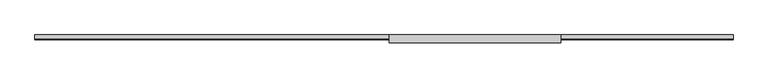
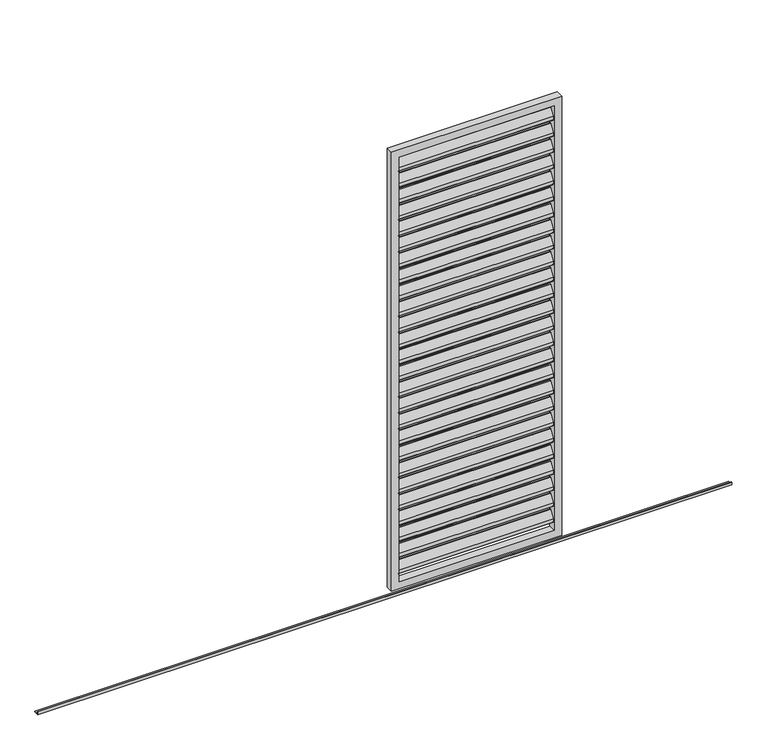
"""IFC4 building model written with IfcOpenShell, lengths in millimetres: proxy geometry, Renson_Amani_Loggia_Paro_Aluminium_Sliding : Renson_Amani_Loggia_Paro_Aluminium_Sliding."""

from ifc_helpers import new_model, si_unit, point, frame, frame_2d, origin, place, context, project, spatial, polyline, circle_curve, trimmed, segment, composite_curve, outline, extrude, source, transform, mapped, element, save


def generic_models_1257a8fd(model_context):
    return source(origin(), model_context, "Body", "SweptSolid", [
        extrude(outline(composite_curve([segment(trimmed(circle_curve(frame_2d((12.6675921, 2432.6587719)), 3.0), [point((10.1515804, 2434.292689))], [point((15.6675921, 2432.6587719))], False, "CARTESIAN"), True, "CONTINUOUS"), segment(polyline([(15.6675921, 2432.6587719), (15.6675921, 2414.2979873)]), True, "CONTINUOUS"), segment(trimmed(circle_curve(frame_2d((12.6675921, 2414.2979873)), 3.0), [point((15.6675921, 2414.2979873))], [point((15.1836038, 2412.6640702))], False, "CARTESIAN"), True, "CONTINUOUS"), segment(polyline([(15.1836038, 2412.6640702), (-8.8163962, 2375.707311)]), True, "CONTINUOUS"), segment(trimmed(circle_curve(frame_2d((-11.3324079, 2377.3412281)), 3.0), [point((-8.8163962, 2375.707311))], [point((-14.3324079, 2377.3412281))], False, "CARTESIAN"), True, "CONTINUOUS"), segment(polyline([(-14.3324079, 2377.3412281), (-14.3324079, 2396.5906532), (10.1515804, 2434.292689)]), True, "CONTINUOUS")], self_intersect=False)), frame((-410.0, 0.0, 0.0), z_axis=(1.0, 0.0, 0.0), x_axis=(0.0, 1.0, 0.0)), (0.0, 0.0, 1.0), 820.0),
        extrude(outline(composite_curve([segment(trimmed(circle_curve(frame_2d((12.6675921, 2342.6587719)), 3.0), [point((10.1515804, 2344.292689))], [point((15.6675921, 2342.6587719))], False, "CARTESIAN"), True, "CONTINUOUS"), segment(polyline([(15.6675921, 2342.6587719), (15.6675921, 2324.2979873)]), True, "CONTINUOUS"), segment(trimmed(circle_curve(frame_2d((12.6675921, 2324.2979873)), 3.0), [point((15.6675921, 2324.2979873))], [point((15.1836038, 2322.6640702))], False, "CARTESIAN"), True, "CONTINUOUS"), segment(polyline([(15.1836038, 2322.6640702), (-8.8163962, 2285.707311)]), True, "CONTINUOUS"), segment(trimmed(circle_curve(frame_2d((-11.3324079, 2287.3412281)), 3.0), [point((-8.8163962, 2285.707311))], [point((-14.3324079, 2287.3412281))], False, "CARTESIAN"), True, "CONTINUOUS"), segment(polyline([(-14.3324079, 2287.3412281), (-14.3324079, 2306.5906532), (10.1515804, 2344.292689)]), True, "CONTINUOUS")], self_intersect=False)), frame((-410.0, 0.0, 0.0), z_axis=(1.0, 0.0, 0.0), x_axis=(0.0, 1.0, 0.0)), (0.0, 0.0, 1.0), 820.0),
        extrude(outline(composite_curve([segment(trimmed(circle_curve(frame_2d((12.6675921, 2252.6587719)), 3.0), [point((10.1515804, 2254.292689))], [point((15.6675921, 2252.6587719))], False, "CARTESIAN"), True, "CONTINUOUS"), segment(polyline([(15.6675921, 2252.6587719), (15.6675921, 2234.2979873)]), True, "CONTINUOUS"), segment(trimmed(circle_curve(frame_2d((12.6675921, 2234.2979873)), 3.0), [point((15.6675921, 2234.2979873))], [point((15.1836038, 2232.6640702))], False, "CARTESIAN"), True, "CONTINUOUS"), segment(polyline([(15.1836038, 2232.6640702), (-8.8163962, 2195.707311)]), True, "CONTINUOUS"), segment(trimmed(circle_curve(frame_2d((-11.3324079, 2197.3412281)), 3.0), [point((-8.8163962, 2195.707311))], [point((-14.3324079, 2197.3412281))], False, "CARTESIAN"), True, "CONTINUOUS"), segment(polyline([(-14.3324079, 2197.3412281), (-14.3324079, 2216.5906532), (10.1515804, 2254.292689)]), True, "CONTINUOUS")], self_intersect=False)), frame((-410.0, 0.0, 0.0), z_axis=(1.0, 0.0, 0.0), x_axis=(0.0, 1.0, 0.0)), (0.0, 0.0, 1.0), 820.0),
        extrude(outline(composite_curve([segment(trimmed(circle_curve(frame_2d((12.6675921, 2162.6587719)), 3.0), [point((10.1515804, 2164.292689))], [point((15.6675921, 2162.6587719))], False, "CARTESIAN"), True, "CONTINUOUS"), segment(polyline([(15.6675921, 2162.6587719), (15.6675921, 2144.2979873)]), True, "CONTINUOUS"), segment(trimmed(circle_curve(frame_2d((12.6675921, 2144.2979873)), 3.0), [point((15.6675921, 2144.2979873))], [point((15.1836038, 2142.6640702))], False, "CARTESIAN"), True, "CONTINUOUS"), segment(polyline([(15.1836038, 2142.6640702), (-8.8163962, 2105.707311)]), True, "CONTINUOUS"), segment(trimmed(circle_curve(frame_2d((-11.3324079, 2107.3412281)), 3.0), [point((-8.8163962, 2105.707311))], [point((-14.3324079, 2107.3412281))], False, "CARTESIAN"), True, "CONTINUOUS"), segment(polyline([(-14.3324079, 2107.3412281), (-14.3324079, 2126.5906532), (10.1515804, 2164.292689)]), True, "CONTINUOUS")], self_intersect=False)), frame((-410.0, 0.0, 0.0), z_axis=(1.0, 0.0, 0.0), x_axis=(0.0, 1.0, 0.0)), (0.0, 0.0, 1.0), 820.0),
        extrude(outline(composite_curve([segment(trimmed(circle_curve(frame_2d((12.6675921, 2072.6587719)), 3.0), [point((10.1515804, 2074.292689))], [point((15.6675921, 2072.6587719))], False, "CARTESIAN"), True, "CONTINUOUS"), segment(polyline([(15.6675921, 2072.6587719), (15.6675921, 2054.2979873)]), True, "CONTINUOUS"), segment(trimmed(circle_curve(frame_2d((12.6675921, 2054.2979873)), 3.0), [point((15.6675921, 2054.2979873))], [point((15.1836038, 2052.6640702))], False, "CARTESIAN"), True, "CONTINUOUS"), segment(polyline([(15.1836038, 2052.6640702), (-8.8163962, 2015.707311)]), True, "CONTINUOUS"), segment(trimmed(circle_curve(frame_2d((-11.3324079, 2017.3412281)), 3.0), [point((-8.8163962, 2015.707311))], [point((-14.3324079, 2017.3412281))], False, "CARTESIAN"), True, "CONTINUOUS"), segment(polyline([(-14.3324079, 2017.3412281), (-14.3324079, 2036.5906532), (10.1515804, 2074.292689)]), True, "CONTINUOUS")], self_intersect=False)), frame((-410.0, 0.0, 0.0), z_axis=(1.0, 0.0, 0.0), x_axis=(0.0, 1.0, 0.0)), (0.0, 0.0, 1.0), 820.0),
        extrude(outline(composite_curve([segment(trimmed(circle_curve(frame_2d((12.6675921, 1982.6587719)), 3.0), [point((10.1515804, 1984.292689))], [point((15.6675921, 1982.6587719))], False, "CARTESIAN"), True, "CONTINUOUS"), segment(polyline([(15.6675921, 1982.6587719), (15.6675921, 1964.2979873)]), True, "CONTINUOUS"), segment(trimmed(circle_curve(frame_2d((12.6675921, 1964.2979873)), 3.0), [point((15.6675921, 1964.2979873))], [point((15.1836038, 1962.6640702))], False, "CARTESIAN"), True, "CONTINUOUS"), segment(polyline([(15.1836038, 1962.6640702), (-8.8163962, 1925.707311)]), True, "CONTINUOUS"), segment(trimmed(circle_curve(frame_2d((-11.3324079, 1927.3412281)), 3.0), [point((-8.8163962, 1925.707311))], [point((-14.3324079, 1927.3412281))], False, "CARTESIAN"), True, "CONTINUOUS"), segment(polyline([(-14.3324079, 1927.3412281), (-14.3324079, 1946.5906532), (10.1515804, 1984.292689)]), True, "CONTINUOUS")], self_intersect=False)), frame((-410.0, 0.0, 0.0), z_axis=(1.0, 0.0, 0.0), x_axis=(0.0, 1.0, 0.0)), (0.0, 0.0, 1.0), 820.0),
        extrude(outline(composite_curve([segment(trimmed(circle_curve(frame_2d((12.6675921, 1892.6587719)), 3.0), [point((10.1515804, 1894.292689))], [point((15.6675921, 1892.6587719))], False, "CARTESIAN"), True, "CONTINUOUS"), segment(polyline([(15.6675921, 1892.6587719), (15.6675921, 1874.2979873)]), True, "CONTINUOUS"), segment(trimmed(circle_curve(frame_2d((12.6675921, 1874.2979873)), 3.0), [point((15.6675921, 1874.2979873))], [point((15.1836038, 1872.6640702))], False, "CARTESIAN"), True, "CONTINUOUS"), segment(polyline([(15.1836038, 1872.6640702), (-8.8163962, 1835.707311)]), True, "CONTINUOUS"), segment(trimmed(circle_curve(frame_2d((-11.3324079, 1837.3412281)), 3.0), [point((-8.8163962, 1835.707311))], [point((-14.3324079, 1837.3412281))], False, "CARTESIAN"), True, "CONTINUOUS"), segment(polyline([(-14.3324079, 1837.3412281), (-14.3324079, 1856.5906532), (10.1515804, 1894.292689)]), True, "CONTINUOUS")], self_intersect=False)), frame((-410.0, 0.0, 0.0), z_axis=(1.0, 0.0, 0.0), x_axis=(0.0, 1.0, 0.0)), (0.0, 0.0, 1.0), 820.0),
        extrude(outline(composite_curve([segment(trimmed(circle_curve(frame_2d((12.6675921, 1802.6587719)), 3.0), [point((10.1515804, 1804.292689))], [point((15.6675921, 1802.6587719))], False, "CARTESIAN"), True, "CONTINUOUS"), segment(polyline([(15.6675921, 1802.6587719), (15.6675921, 1784.2979873)]), True, "CONTINUOUS"), segment(trimmed(circle_curve(frame_2d((12.6675921, 1784.2979873)), 3.0), [point((15.6675921, 1784.2979873))], [point((15.1836038, 1782.6640702))], False, "CARTESIAN"), True, "CONTINUOUS"), segment(polyline([(15.1836038, 1782.6640702), (-8.8163962, 1745.707311)]), True, "CONTINUOUS"), segment(trimmed(circle_curve(frame_2d((-11.3324079, 1747.3412281)), 3.0), [point((-8.8163962, 1745.707311))], [point((-14.3324079, 1747.3412281))], False, "CARTESIAN"), True, "CONTINUOUS"), segment(polyline([(-14.3324079, 1747.3412281), (-14.3324079, 1766.5906532), (10.1515804, 1804.292689)]), True, "CONTINUOUS")], self_intersect=False)), frame((-410.0, 0.0, 0.0), z_axis=(1.0, 0.0, 0.0), x_axis=(0.0, 1.0, 0.0)), (0.0, 0.0, 1.0), 820.0),
        extrude(outline(composite_curve([segment(trimmed(circle_curve(frame_2d((12.6675921, 1712.6587719)), 3.0), [point((10.1515804, 1714.292689))], [point((15.6675921, 1712.6587719))], False, "CARTESIAN"), True, "CONTINUOUS"), segment(polyline([(15.6675921, 1712.6587719), (15.6675921, 1694.2979873)]), True, "CONTINUOUS"), segment(trimmed(circle_curve(frame_2d((12.6675921, 1694.2979873)), 3.0), [point((15.6675921, 1694.2979873))], [point((15.1836038, 1692.6640702))], False, "CARTESIAN"), True, "CONTINUOUS"), segment(polyline([(15.1836038, 1692.6640702), (-8.8163962, 1655.707311)]), True, "CONTINUOUS"), segment(trimmed(circle_curve(frame_2d((-11.3324079, 1657.3412281)), 3.0), [point((-8.8163962, 1655.707311))], [point((-14.3324079, 1657.3412281))], False, "CARTESIAN"), True, "CONTINUOUS"), segment(polyline([(-14.3324079, 1657.3412281), (-14.3324079, 1676.5906532), (10.1515804, 1714.292689)]), True, "CONTINUOUS")], self_intersect=False)), frame((-410.0, 0.0, 0.0), z_axis=(1.0, 0.0, 0.0), x_axis=(0.0, 1.0, 0.0)), (0.0, 0.0, 1.0), 820.0),
        extrude(outline(composite_curve([segment(trimmed(circle_curve(frame_2d((12.6675921, 1622.6587719)), 3.0), [point((10.1515804, 1624.292689))], [point((15.6675921, 1622.6587719))], False, "CARTESIAN"), True, "CONTINUOUS"), segment(polyline([(15.6675921, 1622.6587719), (15.6675921, 1604.2979873)]), True, "CONTINUOUS"), segment(trimmed(circle_curve(frame_2d((12.6675921, 1604.2979873)), 3.0), [point((15.6675921, 1604.2979873))], [point((15.1836038, 1602.6640702))], False, "CARTESIAN"), True, "CONTINUOUS"), segment(polyline([(15.1836038, 1602.6640702), (-8.8163962, 1565.707311)]), True, "CONTINUOUS"), segment(trimmed(circle_curve(frame_2d((-11.3324079, 1567.3412281)), 3.0), [point((-8.8163962, 1565.707311))], [point((-14.3324079, 1567.3412281))], False, "CARTESIAN"), True, "CONTINUOUS"), segment(polyline([(-14.3324079, 1567.3412281), (-14.3324079, 1586.5906532), (10.1515804, 1624.292689)]), True, "CONTINUOUS")], self_intersect=False)), frame((-410.0, 0.0, 0.0), z_axis=(1.0, 0.0, 0.0), x_axis=(0.0, 1.0, 0.0)), (0.0, 0.0, 1.0), 820.0),
        extrude(outline(composite_curve([segment(trimmed(circle_curve(frame_2d((12.6675921, 1532.6587719)), 3.0), [point((10.1515804, 1534.292689))], [point((15.6675921, 1532.6587719))], False, "CARTESIAN"), True, "CONTINUOUS"), segment(polyline([(15.6675921, 1532.6587719), (15.6675921, 1514.2979873)]), True, "CONTINUOUS"), segment(trimmed(circle_curve(frame_2d((12.6675921, 1514.2979873)), 3.0), [point((15.6675921, 1514.2979873))], [point((15.1836038, 1512.6640702))], False, "CARTESIAN"), True, "CONTINUOUS"), segment(polyline([(15.1836038, 1512.6640702), (-8.8163962, 1475.707311)]), True, "CONTINUOUS"), segment(trimmed(circle_curve(frame_2d((-11.3324079, 1477.3412281)), 3.0), [point((-8.8163962, 1475.707311))], [point((-14.3324079, 1477.3412281))], False, "CARTESIAN"), True, "CONTINUOUS"), segment(polyline([(-14.3324079, 1477.3412281), (-14.3324079, 1496.5906532), (10.1515804, 1534.292689)]), True, "CONTINUOUS")], self_intersect=False)), frame((-410.0, 0.0, 0.0), z_axis=(1.0, 0.0, 0.0), x_axis=(0.0, 1.0, 0.0)), (0.0, 0.0, 1.0), 820.0),
        extrude(outline(composite_curve([segment(trimmed(circle_curve(frame_2d((12.6675921, 1442.6587719)), 3.0), [point((10.1515804, 1444.292689))], [point((15.6675921, 1442.6587719))], False, "CARTESIAN"), True, "CONTINUOUS"), segment(polyline([(15.6675921, 1442.6587719), (15.6675921, 1424.2979873)]), True, "CONTINUOUS"), segment(trimmed(circle_curve(frame_2d((12.6675921, 1424.2979873)), 3.0), [point((15.6675921, 1424.2979873))], [point((15.1836038, 1422.6640702))], False, "CARTESIAN"), True, "CONTINUOUS"), segment(polyline([(15.1836038, 1422.6640702), (-8.8163962, 1385.707311)]), True, "CONTINUOUS"), segment(trimmed(circle_curve(frame_2d((-11.3324079, 1387.3412281)), 3.0), [point((-8.8163962, 1385.707311))], [point((-14.3324079, 1387.3412281))], False, "CARTESIAN"), True, "CONTINUOUS"), segment(polyline([(-14.3324079, 1387.3412281), (-14.3324079, 1406.5906532), (10.1515804, 1444.292689)]), True, "CONTINUOUS")], self_intersect=False)), frame((-410.0, 0.0, 0.0), z_axis=(1.0, 0.0, 0.0), x_axis=(0.0, 1.0, 0.0)), (0.0, 0.0, 1.0), 820.0),
        extrude(outline(composite_curve([segment(trimmed(circle_curve(frame_2d((12.6675921, 1352.6587719)), 3.0), [point((10.1515804, 1354.292689))], [point((15.6675921, 1352.6587719))], False, "CARTESIAN"), True, "CONTINUOUS"), segment(polyline([(15.6675921, 1352.6587719), (15.6675921, 1334.2979873)]), True, "CONTINUOUS"), segment(trimmed(circle_curve(frame_2d((12.6675921, 1334.2979873)), 3.0), [point((15.6675921, 1334.2979873))], [point((15.1836038, 1332.6640702))], False, "CARTESIAN"), True, "CONTINUOUS"), segment(polyline([(15.1836038, 1332.6640702), (-8.8163962, 1295.707311)]), True, "CONTINUOUS"), segment(trimmed(circle_curve(frame_2d((-11.3324079, 1297.3412281)), 3.0), [point((-8.8163962, 1295.707311))], [point((-14.3324079, 1297.3412281))], False, "CARTESIAN"), True, "CONTINUOUS"), segment(polyline([(-14.3324079, 1297.3412281), (-14.3324079, 1316.5906532), (10.1515804, 1354.292689)]), True, "CONTINUOUS")], self_intersect=False)), frame((-410.0, 0.0, 0.0), z_axis=(1.0, 0.0, 0.0), x_axis=(0.0, 1.0, 0.0)), (0.0, 0.0, 1.0), 820.0),
        extrude(outline(composite_curve([segment(trimmed(circle_curve(frame_2d((12.6675921, 1262.6587719)), 3.0), [point((10.1515804, 1264.292689))], [point((15.6675921, 1262.6587719))], False, "CARTESIAN"), True, "CONTINUOUS"), segment(polyline([(15.6675921, 1262.6587719), (15.6675921, 1244.2979873)]), True, "CONTINUOUS"), segment(trimmed(circle_curve(frame_2d((12.6675921, 1244.2979873)), 3.0), [point((15.6675921, 1244.2979873))], [point((15.1836038, 1242.6640702))], False, "CARTESIAN"), True, "CONTINUOUS"), segment(polyline([(15.1836038, 1242.6640702), (-8.8163962, 1205.707311)]), True, "CONTINUOUS"), segment(trimmed(circle_curve(frame_2d((-11.3324079, 1207.3412281)), 3.0), [point((-8.8163962, 1205.707311))], [point((-14.3324079, 1207.3412281))], False, "CARTESIAN"), True, "CONTINUOUS"), segment(polyline([(-14.3324079, 1207.3412281), (-14.3324079, 1226.5906532), (10.1515804, 1264.292689)]), True, "CONTINUOUS")], self_intersect=False)), frame((-410.0, 0.0, 0.0), z_axis=(1.0, 0.0, 0.0), x_axis=(0.0, 1.0, 0.0)), (0.0, 0.0, 1.0), 820.0),
        extrude(outline(composite_curve([segment(trimmed(circle_curve(frame_2d((12.6675921, 1172.6587719)), 3.0), [point((10.1515804, 1174.292689))], [point((15.6675921, 1172.6587719))], False, "CARTESIAN"), True, "CONTINUOUS"), segment(polyline([(15.6675921, 1172.6587719), (15.6675921, 1154.2979873)]), True, "CONTINUOUS"), segment(trimmed(circle_curve(frame_2d((12.6675921, 1154.2979873)), 3.0), [point((15.6675921, 1154.2979873))], [point((15.1836038, 1152.6640702))], False, "CARTESIAN"), True, "CONTINUOUS"), segment(polyline([(15.1836038, 1152.6640702), (-8.8163962, 1115.707311)]), True, "CONTINUOUS"), segment(trimmed(circle_curve(frame_2d((-11.3324079, 1117.3412281)), 3.0), [point((-8.8163962, 1115.707311))], [point((-14.3324079, 1117.3412281))], False, "CARTESIAN"), True, "CONTINUOUS"), segment(polyline([(-14.3324079, 1117.3412281), (-14.3324079, 1136.5906532), (10.1515804, 1174.292689)]), True, "CONTINUOUS")], self_intersect=False)), frame((-410.0, 0.0, 0.0), z_axis=(1.0, 0.0, 0.0), x_axis=(0.0, 1.0, 0.0)), (0.0, 0.0, 1.0), 820.0),
        extrude(outline(composite_curve([segment(trimmed(circle_curve(frame_2d((12.6675921, 1082.6587719)), 3.0), [point((10.1515804, 1084.292689))], [point((15.6675921, 1082.6587719))], False, "CARTESIAN"), True, "CONTINUOUS"), segment(polyline([(15.6675921, 1082.6587719), (15.6675921, 1064.2979873)]), True, "CONTINUOUS"), segment(trimmed(circle_curve(frame_2d((12.6675921, 1064.2979873)), 3.0), [point((15.6675921, 1064.2979873))], [point((15.1836038, 1062.6640702))], False, "CARTESIAN"), True, "CONTINUOUS"), segment(polyline([(15.1836038, 1062.6640702), (-8.8163962, 1025.707311)]), True, "CONTINUOUS"), segment(trimmed(circle_curve(frame_2d((-11.3324079, 1027.3412281)), 3.0), [point((-8.8163962, 1025.707311))], [point((-14.3324079, 1027.3412281))], False, "CARTESIAN"), True, "CONTINUOUS"), segment(polyline([(-14.3324079, 1027.3412281), (-14.3324079, 1046.5906532), (10.1515804, 1084.292689)]), True, "CONTINUOUS")], self_intersect=False)), frame((-410.0, 0.0, 0.0), z_axis=(1.0, 0.0, 0.0), x_axis=(0.0, 1.0, 0.0)), (0.0, 0.0, 1.0), 820.0),
        extrude(outline(composite_curve([segment(trimmed(circle_curve(frame_2d((12.6675921, 992.6587719)), 3.0), [point((10.1515804, 994.292689))], [point((15.6675921, 992.6587719))], False, "CARTESIAN"), True, "CONTINUOUS"), segment(polyline([(15.6675921, 992.6587719), (15.6675921, 974.2979873)]), True, "CONTINUOUS"), segment(trimmed(circle_curve(frame_2d((12.6675921, 974.2979873)), 3.0), [point((15.6675921, 974.2979873))], [point((15.1836038, 972.6640702))], False, "CARTESIAN"), True, "CONTINUOUS"), segment(polyline([(15.1836038, 972.6640702), (-8.8163962, 935.707311)]), True, "CONTINUOUS"), segment(trimmed(circle_curve(frame_2d((-11.3324079, 937.3412281)), 3.0), [point((-8.8163962, 935.707311))], [point((-14.3324079, 937.3412281))], False, "CARTESIAN"), True, "CONTINUOUS"), segment(polyline([(-14.3324079, 937.3412281), (-14.3324079, 956.5906532), (10.1515804, 994.292689)]), True, "CONTINUOUS")], self_intersect=False)), frame((-410.0, 0.0, 0.0), z_axis=(1.0, 0.0, 0.0), x_axis=(0.0, 1.0, 0.0)), (0.0, 0.0, 1.0), 820.0),
        extrude(outline(composite_curve([segment(trimmed(circle_curve(frame_2d((12.6675921, 902.6587719)), 3.0), [point((10.1515804, 904.292689))], [point((15.6675921, 902.6587719))], False, "CARTESIAN"), True, "CONTINUOUS"), segment(polyline([(15.6675921, 902.6587719), (15.6675921, 884.2979873)]), True, "CONTINUOUS"), segment(trimmed(circle_curve(frame_2d((12.6675921, 884.2979873)), 3.0), [point((15.6675921, 884.2979873))], [point((15.1836038, 882.6640702))], False, "CARTESIAN"), True, "CONTINUOUS"), segment(polyline([(15.1836038, 882.6640702), (-8.8163962, 845.707311)]), True, "CONTINUOUS"), segment(trimmed(circle_curve(frame_2d((-11.3324079, 847.3412281)), 3.0), [point((-8.8163962, 845.707311))], [point((-14.3324079, 847.3412281))], False, "CARTESIAN"), True, "CONTINUOUS"), segment(polyline([(-14.3324079, 847.3412281), (-14.3324079, 866.5906532), (10.1515804, 904.292689)]), True, "CONTINUOUS")], self_intersect=False)), frame((-410.0, 0.0, 0.0), z_axis=(1.0, 0.0, 0.0), x_axis=(0.0, 1.0, 0.0)), (0.0, 0.0, 1.0), 820.0),
        extrude(outline(composite_curve([segment(trimmed(circle_curve(frame_2d((12.6675921, 812.6587719)), 3.0), [point((10.1515804, 814.292689))], [point((15.6675921, 812.6587719))], False, "CARTESIAN"), True, "CONTINUOUS"), segment(polyline([(15.6675921, 812.6587719), (15.6675921, 794.2979873)]), True, "CONTINUOUS"), segment(trimmed(circle_curve(frame_2d((12.6675921, 794.2979873)), 3.0), [point((15.6675921, 794.2979873))], [point((15.1836038, 792.6640702))], False, "CARTESIAN"), True, "CONTINUOUS"), segment(polyline([(15.1836038, 792.6640702), (-8.8163962, 755.707311)]), True, "CONTINUOUS"), segment(trimmed(circle_curve(frame_2d((-11.3324079, 757.3412281)), 3.0), [point((-8.8163962, 755.707311))], [point((-14.3324079, 757.3412281))], False, "CARTESIAN"), True, "CONTINUOUS"), segment(polyline([(-14.3324079, 757.3412281), (-14.3324079, 776.5906532), (10.1515804, 814.292689)]), True, "CONTINUOUS")], self_intersect=False)), frame((-410.0, 0.0, 0.0), z_axis=(1.0, 0.0, 0.0), x_axis=(0.0, 1.0, 0.0)), (0.0, 0.0, 1.0), 820.0),
        extrude(outline(composite_curve([segment(trimmed(circle_curve(frame_2d((12.6675921, 722.6587719)), 3.0), [point((10.1515804, 724.292689))], [point((15.6675921, 722.6587719))], False, "CARTESIAN"), True, "CONTINUOUS"), segment(polyline([(15.6675921, 722.6587719), (15.6675921, 704.2979873)]), True, "CONTINUOUS"), segment(trimmed(circle_curve(frame_2d((12.6675921, 704.2979873)), 3.0), [point((15.6675921, 704.2979873))], [point((15.1836038, 702.6640702))], False, "CARTESIAN"), True, "CONTINUOUS"), segment(polyline([(15.1836038, 702.6640702), (-8.8163962, 665.707311)]), True, "CONTINUOUS"), segment(trimmed(circle_curve(frame_2d((-11.3324079, 667.3412281)), 3.0), [point((-8.8163962, 665.707311))], [point((-14.3324079, 667.3412281))], False, "CARTESIAN"), True, "CONTINUOUS"), segment(polyline([(-14.3324079, 667.3412281), (-14.3324079, 686.5906532), (10.1515804, 724.292689)]), True, "CONTINUOUS")], self_intersect=False)), frame((-410.0, 0.0, 0.0), z_axis=(1.0, 0.0, 0.0), x_axis=(0.0, 1.0, 0.0)), (0.0, 0.0, 1.0), 820.0),
        extrude(outline(composite_curve([segment(trimmed(circle_curve(frame_2d((12.6675921, 632.6587719)), 3.0), [point((10.1515804, 634.292689))], [point((15.6675921, 632.6587719))], False, "CARTESIAN"), True, "CONTINUOUS"), segment(polyline([(15.6675921, 632.6587719), (15.6675921, 614.2979873)]), True, "CONTINUOUS"), segment(trimmed(circle_curve(frame_2d((12.6675921, 614.2979873)), 3.0), [point((15.6675921, 614.2979873))], [point((15.1836038, 612.6640702))], False, "CARTESIAN"), True, "CONTINUOUS"), segment(polyline([(15.1836038, 612.6640702), (-8.8163962, 575.707311)]), True, "CONTINUOUS"), segment(trimmed(circle_curve(frame_2d((-11.3324079, 577.3412281)), 3.0), [point((-8.8163962, 575.707311))], [point((-14.3324079, 577.3412281))], False, "CARTESIAN"), True, "CONTINUOUS"), segment(polyline([(-14.3324079, 577.3412281), (-14.3324079, 596.5906532), (10.1515804, 634.292689)]), True, "CONTINUOUS")], self_intersect=False)), frame((-410.0, 0.0, 0.0), z_axis=(1.0, 0.0, 0.0), x_axis=(0.0, 1.0, 0.0)), (0.0, 0.0, 1.0), 820.0),
        extrude(outline(composite_curve([segment(trimmed(circle_curve(frame_2d((12.6675921, 542.6587719)), 3.0), [point((10.1515804, 544.292689))], [point((15.6675921, 542.6587719))], False, "CARTESIAN"), True, "CONTINUOUS"), segment(polyline([(15.6675921, 542.6587719), (15.6675921, 524.2979873)]), True, "CONTINUOUS"), segment(trimmed(circle_curve(frame_2d((12.6675921, 524.2979873)), 3.0), [point((15.6675921, 524.2979873))], [point((15.1836038, 522.6640702))], False, "CARTESIAN"), True, "CONTINUOUS"), segment(polyline([(15.1836038, 522.6640702), (-8.8163962, 485.707311)]), True, "CONTINUOUS"), segment(trimmed(circle_curve(frame_2d((-11.3324079, 487.3412281)), 3.0), [point((-8.8163962, 485.707311))], [point((-14.3324079, 487.3412281))], False, "CARTESIAN"), True, "CONTINUOUS"), segment(polyline([(-14.3324079, 487.3412281), (-14.3324079, 506.5906532), (10.1515804, 544.292689)]), True, "CONTINUOUS")], self_intersect=False)), frame((-410.0, 0.0, 0.0), z_axis=(1.0, 0.0, 0.0), x_axis=(0.0, 1.0, 0.0)), (0.0, 0.0, 1.0), 820.0),
        extrude(outline(composite_curve([segment(trimmed(circle_curve(frame_2d((12.6675921, 452.6587719)), 3.0), [point((10.1515804, 454.292689))], [point((15.6675921, 452.6587719))], False, "CARTESIAN"), True, "CONTINUOUS"), segment(polyline([(15.6675921, 452.6587719), (15.6675921, 434.2979873)]), True, "CONTINUOUS"), segment(trimmed(circle_curve(frame_2d((12.6675921, 434.2979873)), 3.0), [point((15.6675921, 434.2979873))], [point((15.1836038, 432.6640702))], False, "CARTESIAN"), True, "CONTINUOUS"), segment(polyline([(15.1836038, 432.6640702), (-8.8163962, 395.707311)]), True, "CONTINUOUS"), segment(trimmed(circle_curve(frame_2d((-11.3324079, 397.3412281)), 3.0), [point((-8.8163962, 395.707311))], [point((-14.3324079, 397.3412281))], False, "CARTESIAN"), True, "CONTINUOUS"), segment(polyline([(-14.3324079, 397.3412281), (-14.3324079, 416.5906532), (10.1515804, 454.292689)]), True, "CONTINUOUS")], self_intersect=False)), frame((-410.0, 0.0, 0.0), z_axis=(1.0, 0.0, 0.0), x_axis=(0.0, 1.0, 0.0)), (0.0, 0.0, 1.0), 820.0),
        extrude(outline(composite_curve([segment(trimmed(circle_curve(frame_2d((12.6675921, 362.6587719)), 3.0), [point((10.1515804, 364.292689))], [point((15.6675921, 362.6587719))], False, "CARTESIAN"), True, "CONTINUOUS"), segment(polyline([(15.6675921, 362.6587719), (15.6675921, 344.2979873)]), True, "CONTINUOUS"), segment(trimmed(circle_curve(frame_2d((12.6675921, 344.2979873)), 3.0), [point((15.6675921, 344.2979873))], [point((15.1836038, 342.6640702))], False, "CARTESIAN"), True, "CONTINUOUS"), segment(polyline([(15.1836038, 342.6640702), (-8.8163962, 305.707311)]), True, "CONTINUOUS"), segment(trimmed(circle_curve(frame_2d((-11.3324079, 307.3412281)), 3.0), [point((-8.8163962, 305.707311))], [point((-14.3324079, 307.3412281))], False, "CARTESIAN"), True, "CONTINUOUS"), segment(polyline([(-14.3324079, 307.3412281), (-14.3324079, 326.5906532), (10.1515804, 364.292689)]), True, "CONTINUOUS")], self_intersect=False)), frame((-410.0, 0.0, 0.0), z_axis=(1.0, 0.0, 0.0), x_axis=(0.0, 1.0, 0.0)), (0.0, 0.0, 1.0), 820.0),
        extrude(outline(composite_curve([segment(trimmed(circle_curve(frame_2d((12.6675921, 272.6587719)), 3.0), [point((10.1515804, 274.292689))], [point((15.6675921, 272.6587719))], False, "CARTESIAN"), True, "CONTINUOUS"), segment(polyline([(15.6675921, 272.6587719), (15.6675921, 254.2979873)]), True, "CONTINUOUS"), segment(trimmed(circle_curve(frame_2d((12.6675921, 254.2979873)), 3.0), [point((15.6675921, 254.2979873))], [point((15.1836038, 252.6640702))], False, "CARTESIAN"), True, "CONTINUOUS"), segment(polyline([(15.1836038, 252.6640702), (-8.8163962, 215.707311)]), True, "CONTINUOUS"), segment(trimmed(circle_curve(frame_2d((-11.3324079, 217.3412281)), 3.0), [point((-8.8163962, 215.707311))], [point((-14.3324079, 217.3412281))], False, "CARTESIAN"), True, "CONTINUOUS"), segment(polyline([(-14.3324079, 217.3412281), (-14.3324079, 236.5906532), (10.1515804, 274.292689)]), True, "CONTINUOUS")], self_intersect=False)), frame((-410.0, 0.0, 0.0), z_axis=(1.0, 0.0, 0.0), x_axis=(0.0, 1.0, 0.0)), (0.0, 0.0, 1.0), 820.0),
        extrude(outline(composite_curve([segment(trimmed(circle_curve(frame_2d((12.6675921, 182.6587719)), 3.0), [point((10.1515804, 184.292689))], [point((15.6675921, 182.6587719))], False, "CARTESIAN"), True, "CONTINUOUS"), segment(polyline([(15.6675921, 182.6587719), (15.6675921, 164.2979873)]), True, "CONTINUOUS"), segment(trimmed(circle_curve(frame_2d((12.6675921, 164.2979873)), 3.0), [point((15.6675921, 164.2979873))], [point((15.1836038, 162.6640702))], False, "CARTESIAN"), True, "CONTINUOUS"), segment(polyline([(15.1836038, 162.6640702), (-8.8163962, 125.707311)]), True, "CONTINUOUS"), segment(trimmed(circle_curve(frame_2d((-11.3324079, 127.3412281)), 3.0), [point((-8.8163962, 125.707311))], [point((-14.3324079, 127.3412281))], False, "CARTESIAN"), True, "CONTINUOUS"), segment(polyline([(-14.3324079, 127.3412281), (-14.3324079, 146.5906532), (10.1515804, 184.292689)]), True, "CONTINUOUS")], self_intersect=False)), frame((-410.0, 0.0, 0.0), z_axis=(1.0, 0.0, 0.0), x_axis=(0.0, 1.0, 0.0)), (0.0, 0.0, 1.0), 820.0),
        extrude(outline(polyline([(-6.0, 15.0), (-3.0, 15.0), (-3.0, 3.0), (20.0, 3.0), (20.0, 0.0), (-6.0, 0.0), (-6.0, 15.0)])), frame((-2312.9830103, 0.0, 0.0), z_axis=(1.0, 0.0, 0.0), x_axis=(0.0, 1.0, 0.0)), (0.0, 0.0, 1.0), 3670.0),
        extrude(outline(polyline([(2500.0, -450.0), (45.0, -450.0), (45.0, 450.0), (2500.0, 450.0), (2500.0, -450.0)]), holes=[polyline([(2460.0, 410.0), (85.0, 410.0), (85.0, -410.0), (2460.0, -410.0), (2460.0, 410.0)])]), frame((0.0, -20.0, 0.0), z_axis=(0.0, 1.0, 0.0), x_axis=(0.0, 0.0, 1.0)), (0.0, 0.0, 1.0), 40.0),
    ])


if __name__ == "__main__":
    model = new_model("IFC4")
    model_context = context("Model", 3, world=origin())
    ifc_project = project(units=[si_unit("LENGTHUNIT", "METRE", prefix="MILLI")], contexts=[model_context])
    site = spatial("IfcSite", under=ifc_project)
    building = spatial("IfcBuilding", under=site)
    placement = place(None, origin())
    generic_models_shape = generic_models_1257a8fd(model_context)
    element("IfcBuildingElementProxy", 1, Name="Renson_Amani_Loggia_Paro_Aluminium_Sliding : Renson_Amani_Loggia_Paro_Aluminium_Sliding", ObjectType="Renson_Amani_Loggia_Paro_Aluminium_Sliding : Renson_Amani_Loggia_Paro_Aluminium_Sliding", at=placement, inside=building, context=model_context, shape_type="MappedRepresentation", body=[
        mapped(generic_models_shape, transform((0.0, 0.0, 0.0), x_axis=(1.0, 0.0, 0.0), y_axis=(0.0, 1.0, 0.0), z_axis=(0.0, 0.0, 1.0))),
    ])
    save(model, "model.ifc")
